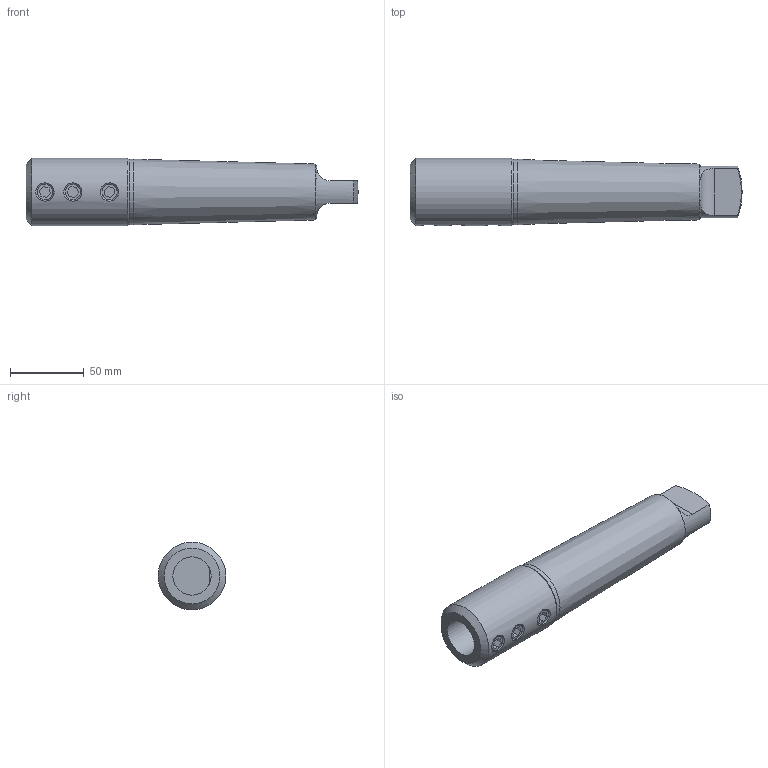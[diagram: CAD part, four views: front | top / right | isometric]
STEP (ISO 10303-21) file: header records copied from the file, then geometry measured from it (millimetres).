
FILE_DESCRIPTION(/* description */ (''),/* implementation_level */ '2;1');
FILE_NAME(/* name */ 'Z:\Проектный отдел\Алена\MTA5-SLN25\Сборка MTA5-SLN25.stp',/* time_stamp */ '2023-10-16T12:31:17+03:00',/* author */ ('User'),/* organization */ (''),/* preprocessor_version */ 'ST-DEVELOPER v18',/* originating_system */ 'Autodesk Inventor 2020',/* authorisation */ '');
FILE_SCHEMA (('AUTOMOTIVE_DESIGN { 1 0 10303 214 3 1 1 }'));
Length unit declared in the file: millimetre
Products named in the file (3): Сборка1; Деталь1; Сухарик
Assembly tree (4 placements, depth 2):
  Сборка1
    Деталь1
    Сухарик  x3
Bounding box: 225.51 x 46 x 46 mm (x, y, z)
Volume: 263395.4 mm3; surface area: 39400.1 mm2
Topology: 4 solids, 4 shells, 57 faces, 143 edges, 97 vertices
Faces by surface type: plane 33, cylinder 13, bspline 7, cone 4
Full cylindrical faces by diameter (mm): 10.376 x3, 10.5 x3, 26 x1, 44.5 x1, 46 x1
Entity records: 2355 total; most frequent: CARTESIAN_POINT 1288, ORIENTED_EDGE 198, DIRECTION 174, EDGE_CURVE 99, VERTEX_POINT 68, AXIS2_PLACEMENT_3D 64, LINE 46, VECTOR 46
